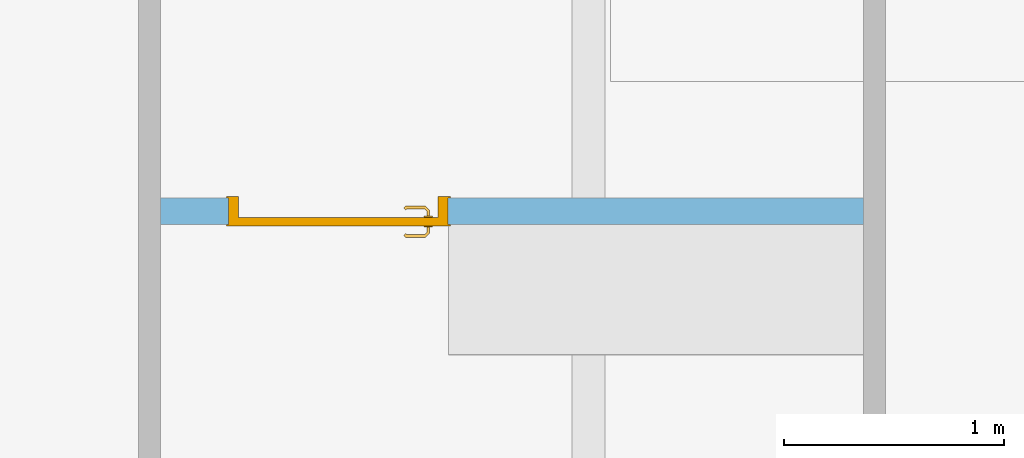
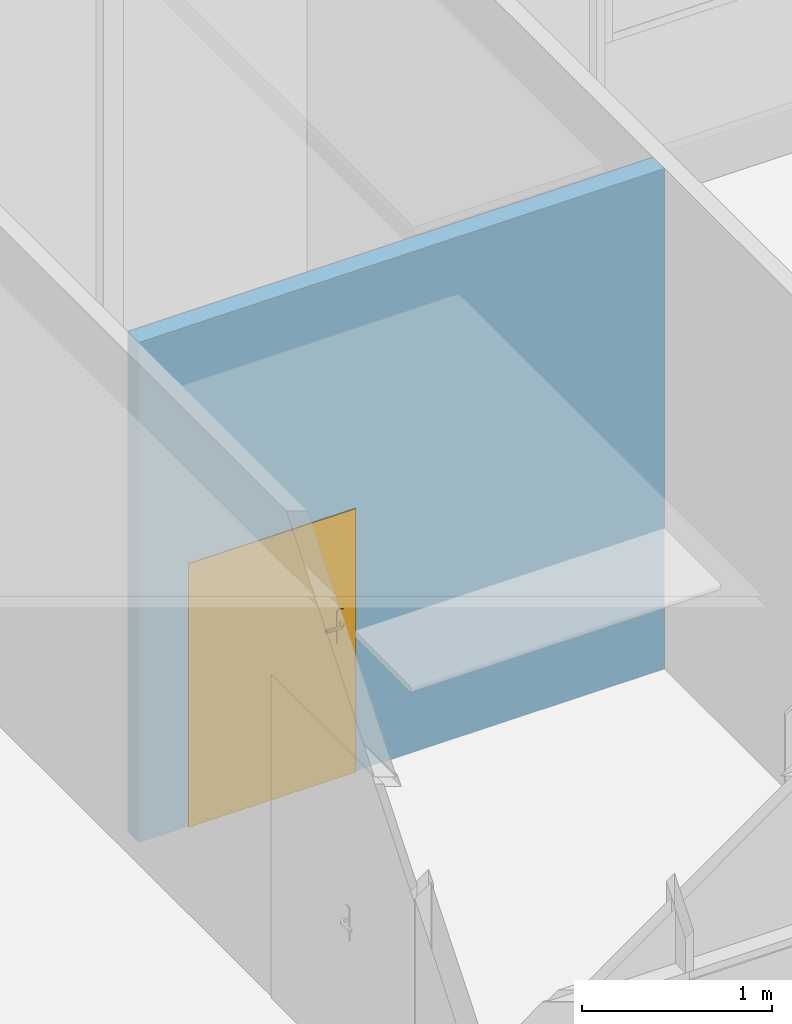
# One storey, part 79 of 137: 1 door, 1 opening, plus 1 element that does not belong to this part.
"""IFC2X3 building model written with IfcOpenShell, lengths in centimetres."""

from ifc_helpers import new_model, entity, si_unit, converted_unit, derived_unit, direction, frame, frame_2d, origin, place, context, subcontext, project, spatial, polyline, rectangle, extrude, clip, bounded_halfspace, faceted_brep, source, transform, mapped, material, material_list, layer, layer_set, layer_usage, type_object, type_shapes, element, fill, save


model = new_model("IFC2X3")

# Units and contexts
model_context = context("Model", 3, precision=0.001, world=origin(), true_north=direction((6.12303176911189e-17, 1.0)))
body_context = subcontext(model_context, "Body", "Model", "MODEL_VIEW")
ifc_project = project(units=[si_unit("LENGTHUNIT", "METRE", prefix="CENTI"), si_unit("AREAUNIT", "SQUARE_METRE"), si_unit("VOLUMEUNIT", "CUBIC_METRE"), converted_unit("PLANEANGLEUNIT", "DEGREE", entity("IfcRatioMeasure", 0.0174532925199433), si_unit("PLANEANGLEUNIT", "RADIAN"), dimensions=[0, 0, 0, 0, 0, 0, 0]), si_unit("MASSUNIT", "GRAM", prefix="KILO"), si_unit("TIMEUNIT", "SECOND"), si_unit("FREQUENCYUNIT", "HERTZ"), si_unit("THERMODYNAMICTEMPERATUREUNIT", "DEGREE_CELSIUS"), derived_unit("THERMALTRANSMITTANCEUNIT", [(si_unit("MASSUNIT", "GRAM", prefix="KILO"), 1), (si_unit("THERMODYNAMICTEMPERATUREUNIT", "KELVIN"), -1), (si_unit("TIMEUNIT", "SECOND"), -3)]), derived_unit("VOLUMETRICFLOWRATEUNIT", [(si_unit("LENGTHUNIT", "METRE"), 3), (si_unit("TIMEUNIT", "SECOND"), -1)]), si_unit("ELECTRICCURRENTUNIT", "AMPERE"), si_unit("ELECTRICVOLTAGEUNIT", "VOLT"), si_unit("POWERUNIT", "WATT"), si_unit("FORCEUNIT", "NEWTON", prefix="KILO"), si_unit("ILLUMINANCEUNIT", "LUX"), si_unit("LUMINOUSFLUXUNIT", "LUMEN"), si_unit("LUMINOUSINTENSITYUNIT", "CANDELA"), derived_unit("USERDEFINED", [(si_unit("MASSUNIT", "GRAM", prefix="KILO"), -1), (si_unit("LENGTHUNIT", "METRE"), -2), (si_unit("TIMEUNIT", "SECOND"), 3), (si_unit("LUMINOUSFLUXUNIT", "LUMEN"), 1)]), derived_unit("LINEARVELOCITYUNIT", [(si_unit("LENGTHUNIT", "METRE"), 1), (si_unit("TIMEUNIT", "SECOND"), -1)]), si_unit("PRESSUREUNIT", "PASCAL"), derived_unit("USERDEFINED", [(si_unit("LENGTHUNIT", "METRE"), -2), (si_unit("MASSUNIT", "GRAM", prefix="KILO"), 1), (si_unit("TIMEUNIT", "SECOND"), -2)])], contexts=[model_context])

# Site, building, storey
site_placement = place(None, frame((8.62739174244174, -249.285249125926, 0.0)))
site = spatial("IfcSite", under=ifc_project, at=site_placement, Name="Default", CompositionType="ELEMENT")
building_placement = place(site_placement, origin())
building = spatial("IfcBuilding", under=site, at=building_placement, CompositionType="ELEMENT")
storey_placement = place(building_placement, origin())
storey = spatial("IfcBuildingStorey", under=building, at=storey_placement, Name="RDC", CompositionType="ELEMENT", Elevation=-8.82465566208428e-11)

# Wall, opening, door
ifc_material_1 = material(Name="Plâtre")
ifc_layer = layer(ifc_material_1, 12.0)
ifc_layer_set = layer_set([ifc_layer], Name="Mur de base:PLA 12")
ifc_layer_usage = layer_usage(ifc_layer_set, "AXIS2", "NEGATIVE", 6.0)
wall_type = type_object("IfcWallType", Name="Mur de base:PLA 12", PredefinedType="STANDARD", material=ifc_layer_set)
wall_placement = place(storey_placement, frame((854.0, 397.0, 0.0)))
wall = element("IfcWallStandardCase", 1, at=wall_placement, inside=storey, type_object=wall_type, material=ifc_layer_usage, Name="Mur de base:PLA 12", ObjectType="Mur de base:PLA 12", context=body_context, shape_type="Clipping", body=[
    clip(extrude(rectangle(XDim=320.0, YDim=12.0, at=frame_2d((160.0, 4.44089209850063e-16), x_axis=(-1.0, 0.0))), origin(), (0.0, 0.0, 1.0), 322.000000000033), bounded_halfspace(frame((0.0, -6.0, 322.0), z_axis=(0.0, 0.0, -1.0), x_axis=(-1.0, 0.0, 0.0)), True, frame((0.0, -6.0, 322.0)), polyline([(0.0, 0.0), (320.0, 0.0), (320.0, 12.0), (0.0, 12.0), (0.0, 0.0)]))),
])
opening_placement = place(wall_placement, frame((130.90482781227, 6.0, 0.0)))
opening = element("IfcOpeningElement", 2, at=opening_placement, cuts=wall, Name="Simple(R)_bois_mu:93 x 165 cm:1", ObjectType="Opening", context=body_context, shape_type="SweptSolid", body=[
    extrude(rectangle(XDim=168.5, YDim=99.9999999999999, at=frame_2d((84.25, 50.0), x_axis=(1.0, 0.0))), frame((0.0, 0.0, 0.0), z_axis=(0.0, -1.0, 0.0), x_axis=(0.0, 0.0, 1.0)), (0.0, 0.0, 1.0), 12.0),
])
ifc_material_2 = material(Name="Porte - Poignée")
ifc_material_3 = material(Name="Porte - Cadre")
ifc_material_4 = material(Name="Porte - Panneau")
ifc_material_list_1 = material_list([ifc_material_2, ifc_material_3, ifc_material_4])
ifc_material_list_2 = material_list([ifc_material_2, ifc_material_3, ifc_material_4])
door_style = type_object("IfcDoorStyle", Name="93 x 165 cm", ConstructionType="NOTDEFINED", OperationType="SINGLE_SWING_LEFT", ParameterTakesPrecedence=False, Sizeable=False, material=ifc_material_list_2)
shared_shape = source(origin(), body_context, "Body", "Brep", [
    faceted_brep([(92.2025298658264, 3.69999999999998, 100.778044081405), (91.7974701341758, 3.69999999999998, 100.778044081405), (91.3999999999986, 3.69999999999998, 100.699999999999), (91.4000000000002, 3.69999999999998, 99.3000000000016), (91.7974701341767, 3.69999999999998, 99.2219559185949), (92.2025298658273, 3.69999999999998, 99.2219559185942), (92.6000000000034, 3.69999999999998, 99.2999999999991), (92.600000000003, 3.69999999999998, 100.699999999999), (91.3999999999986, 5.94852045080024, 100.699999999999), (91.3999999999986, 5.94852045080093, 99.3000000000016), (91.7974701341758, 6.1131579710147, 100.778044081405), (92.2025298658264, 6.2809392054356, 100.778044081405), (90.5838906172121, 7.89957845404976, 100.778044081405), (90.4161093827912, 7.49451872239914, 100.778044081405), (82.0793122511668, 7.49451872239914, 100.778044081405), (81.911531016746, 7.89957845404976, 100.778044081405), (81.1451046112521, 7.13315204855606, 100.778044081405), (81.4315250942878, 6.84673156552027, 100.778044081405), (92.600000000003, 6.44557672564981, 100.699999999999), (92.6000000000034, 6.44557672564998, 99.2999999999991), (92.2025298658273, 6.28093920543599, 99.2219559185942), (91.7974701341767, 6.11315797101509, 99.2219559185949), (90.4161093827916, 7.49451872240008, 99.2219559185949), (90.5838906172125, 7.8995784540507, 99.2219559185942), (81.9115310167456, 7.8995784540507, 99.2219559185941), (82.0793122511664, 7.49451872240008, 99.2219559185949), (81.4315250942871, 6.84673156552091, 99.2219559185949), (81.1451046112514, 7.13315204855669, 99.2219559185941), (90.2514718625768, 7.09704858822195, 100.699999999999), (90.2514718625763, 7.09704858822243, 99.3000000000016), (90.7485281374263, 8.29704858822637, 100.699999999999), (90.7485281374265, 8.29704858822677, 99.2999999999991), (86.247710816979, 7.09704858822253, 100.699999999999), (82.2439497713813, 7.09704858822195, 100.699999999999), (82.2439497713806, 7.09704858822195, 99.3000000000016), (86.247710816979, 7.09704858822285, 99.3000000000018), (86.2477108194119, 7.71249275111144, 100.787811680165), (85.7399422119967, 8.29704858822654, 100.699999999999), (81.7468934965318, 8.29704858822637, 100.699999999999), (86.7554791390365, 8.29704858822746, 99.2999999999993), (81.7468934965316, 8.29704858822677, 99.2999999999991), (86.2477107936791, 7.71249274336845, 99.2121883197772), (80.8640507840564, 7.41420587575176, 100.699999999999), (80.8640507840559, 7.41420587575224, 99.2999999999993), (81.7125789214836, 6.5656777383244, 99.3000000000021), (81.7125789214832, 6.56567773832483, 100.699999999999)], [[[0, 1, 2, 3, 4, 5, 6, 7]], [[8, 9, 3, 2]], [[1, 10, 8, 2]], [[1, 0, 11, 12, 13, 10]], [[14, 15, 16, 17]], [[7, 18, 11, 0]], [[18, 7, 6, 19]], [[6, 5, 20, 19]], [[5, 4, 21, 22, 23, 20]], [[24, 25, 26, 27]], [[4, 3, 9, 21]], [[28, 29, 9, 8]], [[8, 10, 13, 28]], [[18, 30, 12, 11]], [[31, 30, 18, 19]], [[19, 20, 23, 31]], [[21, 9, 29, 22]], [[29, 28, 32, 33, 34, 35]], [[36, 32, 13]], [[37, 38, 15]], [[37, 12, 30]], [[36, 12, 37]], [[14, 32, 36]], [[36, 15, 14]], [[28, 13, 32]], [[32, 14, 33]], [[12, 36, 13]], [[15, 36, 37]], [[30, 31, 39, 40, 38, 37]], [[23, 41, 39]], [[24, 39, 41]], [[39, 31, 23]], [[39, 24, 40]], [[22, 35, 41]], [[41, 23, 22]], [[41, 35, 25]], [[35, 22, 29]], [[34, 25, 35]], [[24, 41, 25]], [[17, 16, 42, 43, 27, 26, 44, 45]], [[45, 44, 34, 33]], [[33, 14, 17, 45]], [[15, 38, 42, 16]], [[43, 42, 38, 40]], [[24, 27, 43, 40]], [[34, 44, 26, 25]]]),
    faceted_brep([(91.7974701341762, -1.30000000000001, 100.778044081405), (92.2025298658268, -1.30000000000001, 100.778044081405), (92.6000000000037, -1.30000000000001, 100.699999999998), (92.6000000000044, -1.30000000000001, 99.2999999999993), (92.2025298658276, -1.30000000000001, 99.2219559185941), (91.797470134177, -1.30000000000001, 99.2219559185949), (91.3999999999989, -1.30000000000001, 99.3000000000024), (91.3999999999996, -1.30000000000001, 100.699999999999), (92.2025298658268, -3.90045754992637, 100.778044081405), (92.6000000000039, -4.06509507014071, 100.699999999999), (91.7974701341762, -3.73267631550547, 100.778044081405), (90.4298602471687, -5.10028620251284, 100.778044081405), (90.5976414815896, -5.50534593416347, 100.778044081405), (81.9142453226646, -5.50534593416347, 100.778044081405), (82.0820265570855, -5.10028620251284, 100.778044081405), (81.4342394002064, -4.4524990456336, 100.778044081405), (81.1478189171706, -4.73891952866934, 100.778044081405), (91.3999999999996, -3.56803879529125, 100.699999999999), (91.3999999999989, -3.56803879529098, 99.3000000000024), (91.797470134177, -3.7326763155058, 99.2219559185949), (92.2025298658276, -3.9004575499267, 99.2219559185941), (90.5976414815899, -5.50534593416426, 99.2219559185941), (90.429860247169, -5.10028620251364, 99.2219559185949), (82.0820265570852, -5.10028620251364, 99.2219559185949), (81.9142453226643, -5.50534593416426, 99.2219559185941), (81.14781891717, -4.73891952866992, 99.2219559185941), (81.4342394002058, -4.45249904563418, 99.2219559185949), (92.6000000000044, -4.06509507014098, 99.2999999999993), (90.762279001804, -5.90281606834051, 100.699999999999), (90.2652227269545, -4.70281606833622, 100.699999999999), (90.2652227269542, -4.70281606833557, 99.3000000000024), (90.7622790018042, -5.90281606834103, 99.2999999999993), (86.2559433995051, -5.31828027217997, 100.787811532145), (86.769230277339, -5.90281606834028, 100.699999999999), (81.7496078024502, -5.90281606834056, 100.699999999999), (86.255943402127, -4.70281606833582, 100.699999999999), (82.2466640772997, -4.70281606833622, 100.699999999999), (86.2559436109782, -4.70281606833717, 99.3000000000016), (82.2466640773, -4.70281606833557, 99.3000000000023), (86.2559434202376, -5.31828027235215, 99.2121884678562), (85.7426572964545, -5.90281606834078, 99.2999999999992), (81.74960780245, -5.90281606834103, 99.2999999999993), (81.7152932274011, -4.17144521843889, 99.3000000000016), (80.8667650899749, -5.01997335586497, 99.2999999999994), (80.8667650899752, -5.01997335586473, 100.699999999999), (81.7152932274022, -4.17144521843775, 100.699999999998)], [[[0, 1, 2, 3, 4, 5, 6, 7]], [[2, 1, 8, 9]], [[1, 0, 10, 11, 12, 8]], [[13, 14, 15, 16]], [[0, 7, 17, 10]], [[18, 17, 7, 6]], [[5, 19, 18, 6]], [[5, 4, 20, 21, 22, 19]], [[23, 24, 25, 26]], [[3, 27, 20, 4]], [[9, 27, 3, 2]], [[9, 8, 12, 28]], [[10, 17, 29, 11]], [[30, 29, 17, 18]], [[18, 19, 22, 30]], [[20, 27, 31, 21]], [[28, 31, 27, 9]], [[12, 32, 33]], [[13, 33, 32]], [[33, 28, 12]], [[33, 13, 34]], [[11, 35, 32]], [[32, 12, 11]], [[32, 35, 14]], [[35, 11, 29]], [[36, 14, 35]], [[13, 32, 14]], [[29, 30, 37, 38, 36, 35]], [[39, 37, 22]], [[40, 41, 24]], [[40, 21, 31]], [[39, 21, 40]], [[23, 37, 39]], [[39, 24, 23]], [[30, 22, 37]], [[37, 23, 38]], [[21, 39, 22]], [[24, 39, 40]], [[31, 28, 33, 34, 41, 40]], [[42, 26, 25, 43, 44, 16, 15, 45]], [[13, 16, 44, 34]], [[36, 45, 15, 14]], [[42, 45, 36, 38]], [[38, 23, 26, 42]], [[24, 41, 43, 25]], [[44, 43, 41, 34]]]),
    faceted_brep([(92.0, 3.19999999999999, 86.4641016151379), (93.0352761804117, 3.19999999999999, 86.6003983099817), (94.0, 3.19999999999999, 87.0), (94.0, 3.19999999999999, 108.0), (93.0352761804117, 3.19999999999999, 108.399601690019), (92.0, 3.19999999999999, 108.535898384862), (90.9647238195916, 3.19999999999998, 108.399601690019), (90.0, 3.19999999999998, 108.0), (90.0, 3.19999999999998, 87.0), (90.9647238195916, 3.19999999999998, 86.6003983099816), (92.0, 3.69999999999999, 108.535898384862), (93.0352761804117, 3.69999999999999, 108.399601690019), (94.0, 3.69999999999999, 108.0), (94.0, 3.69999999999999, 87.0), (93.0352761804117, 3.69999999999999, 86.6003983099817), (92.0, 3.69999999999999, 86.4641016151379), (90.9647238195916, 3.69999999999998, 86.6003983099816), (90.0, 3.69999999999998, 87.0), (90.0, 3.69999999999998, 108.0), (90.9647238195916, 3.69999999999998, 108.399601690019)], [[[0, 1, 2, 3, 4, 5, 6, 7, 8, 9]], [[10, 11, 12, 13, 14, 15, 16, 17, 18, 19]], [[6, 19, 18, 7]], [[5, 10, 19, 6]], [[4, 11, 10, 5]], [[4, 3, 12, 11]], [[12, 3, 2, 13]], [[1, 14, 13, 2]], [[0, 15, 14, 1]], [[9, 16, 15, 0]], [[9, 8, 17, 16]], [[17, 8, 7, 18]]]),
    faceted_brep([(92.0, -1.30000000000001, 86.4641016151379), (93.0352761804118, -1.30000000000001, 86.6003983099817), (94.0, -1.30000000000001, 87.0), (94.0, -1.30000000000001, 108.0), (93.0352761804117, -1.30000000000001, 108.399601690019), (92.0, -1.30000000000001, 108.535898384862), (90.9647238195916, -1.30000000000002, 108.399601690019), (90.0, -1.30000000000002, 108.0), (90.0, -1.30000000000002, 87.0), (90.9647238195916, -1.30000000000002, 86.6003983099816), (94.0, -0.800000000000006, 108.0), (94.0, -0.800000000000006, 87.0), (93.0352761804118, -0.800000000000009, 86.6003983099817), (92.0, -0.800000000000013, 86.4641016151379), (90.9647238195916, -0.800000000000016, 86.6003983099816), (90.0, -0.800000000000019, 87.0), (90.0, -0.800000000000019, 108.0), (90.9647238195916, -0.800000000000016, 108.399601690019), (92.0, -0.800000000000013, 108.535898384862), (93.0352761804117, -0.800000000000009, 108.399601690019)], [[[0, 1, 2, 3, 4, 5, 6, 7, 8, 9]], [[10, 11, 12, 13, 14, 15, 16, 17, 18, 19]], [[1, 12, 11, 2]], [[0, 13, 12, 1]], [[9, 14, 13, 0]], [[9, 8, 15, 14]], [[15, 8, 7, 16]], [[6, 17, 16, 7]], [[5, 18, 17, 6]], [[4, 19, 18, 5]], [[4, 3, 10, 19]], [[10, 3, 2, 11]]]),
    faceted_brep([(101.0, 0.0, 0.0), (102.0, 0.0, 0.0), (102.0, -0.799999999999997, 0.0), (97.5000000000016, -0.799999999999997, 0.0), (97.5000000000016, 3.2, 0.0), (96.5000000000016, 3.2, 0.0), (96.5000000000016, 12.8000000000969, 0.0), (102.0, 12.8000000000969, 0.0), (102.0, 12.0, 0.0), (101.0, 12.0, 0.0), (101.0, 12.0, 168.5), (101.0, 0.0, 168.5), (102.0, 12.0, 169.5), (0.0, 12.0, 169.5), (0.0, 12.0, 0.0), (1.0, 12.0, 0.0), (1.0, 12.0, 168.5), (102.0, 12.8000000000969, 169.5), (96.5000000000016, 12.8000000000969, 164.0), (5.50000000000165, 12.8000000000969, 164.0), (5.50000000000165, 12.8000000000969, 0.0), (0.0, 12.8000000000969, 0.0), (0.0, 12.8000000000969, 169.5), (96.5000000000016, 3.2, 164.0), (97.5000000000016, 3.2, 165.0), (4.50000000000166, 3.2, 165.0), (4.50000000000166, 3.2, 0.0), (5.50000000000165, 3.2, 0.0), (5.50000000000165, 3.2, 164.0), (97.5000000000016, -0.799999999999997, 165.0), (102.0, -0.799999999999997, 169.5), (0.0, -0.799999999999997, 169.5), (0.0, -0.799999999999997, 0.0), (4.50000000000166, -0.799999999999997, 0.0), (4.50000000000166, -0.799999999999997, 165.0), (102.0, 0.0, 169.5), (1.0, 0.0, 168.5), (1.0, 0.0, 0.0), (0.0, 0.0, 0.0), (0.0, 0.0, 169.5)], [[[0, 1, 2, 3, 4, 5, 6, 7, 8, 9]], [[9, 10, 11, 0]], [[8, 12, 13, 14, 15, 16, 10, 9]], [[7, 17, 12, 8]], [[6, 18, 19, 20, 21, 22, 17, 7]], [[5, 23, 18, 6]], [[4, 24, 25, 26, 27, 28, 23, 5]], [[3, 29, 24, 4]], [[2, 30, 31, 32, 33, 34, 29, 3]], [[1, 35, 30, 2]], [[0, 11, 36, 37, 38, 39, 35, 1]], [[16, 15, 37, 36]], [[37, 15, 14, 21, 20, 27, 26, 33, 32, 38]], [[22, 21, 14, 13]], [[28, 27, 20, 19]], [[34, 33, 26, 25]], [[39, 38, 32, 31]], [[10, 16, 36, 11]], [[17, 22, 13, 12]], [[23, 28, 19, 18]], [[29, 34, 25, 24]], [[35, 39, 31, 30]]]),
    faceted_brep([(97.5000000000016, -0.799999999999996, 165.0), (4.50000000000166, -0.799999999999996, 165.0), (4.50000000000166, -0.799999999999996, 0.0), (97.5000000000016, -0.799999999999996, 0.0), (97.5000000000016, 3.2, 165.0), (97.5000000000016, 3.2, 0.0), (4.50000000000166, 3.2, 0.0), (4.50000000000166, 3.2, 165.0)], [[[0, 1, 2, 3]], [[4, 5, 6, 7]], [[3, 5, 4, 0]], [[2, 6, 5, 3]], [[1, 7, 6, 2]], [[0, 4, 7, 1]]]),
])
type_shapes(door_style, [shared_shape])
door_placement = place(opening_placement, frame((-101.0, -12.0, 0.0)))
door = element("IfcDoor", 3, at=door_placement, inside=storey, type_object=door_style, material=ifc_material_list_1, Name="Simple(R)_bois_mu:93 x 165 cm", ObjectType="93 x 165 cm", OverallHeight=168.5, OverallWidth=100.0, context=body_context, shape_type="MappedRepresentation", body=[
    mapped(shared_shape, transform((0.0, 0.0, 0.0), scale=1.0)),
])
fill(opening, door)

save(model, "model.ifc")
